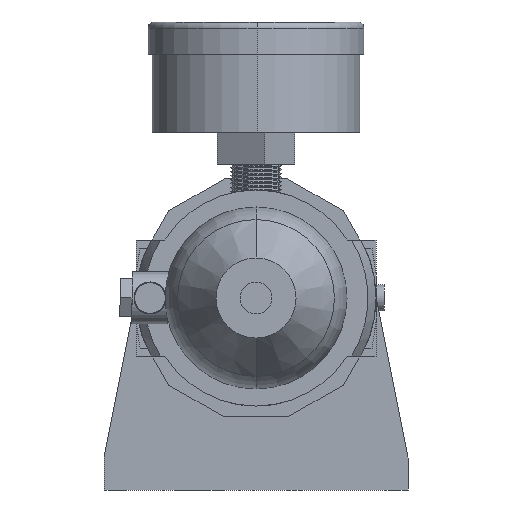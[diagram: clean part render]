
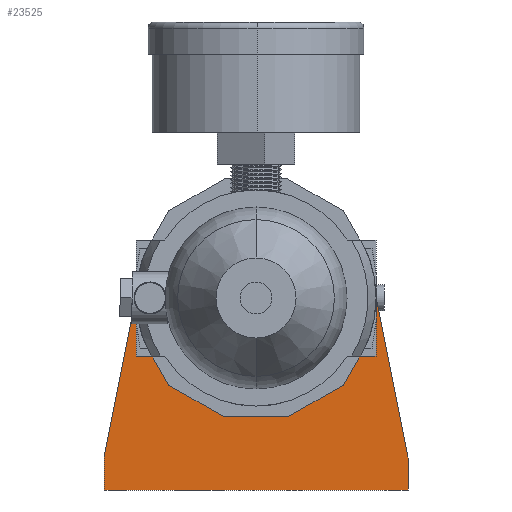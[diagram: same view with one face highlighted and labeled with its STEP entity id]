
A CAD part, front view. The second image highlights one B-rep face of the part: STEP entity #23525.
In plain terms, the highlighted planar face has unit normal (0, -1, 0).
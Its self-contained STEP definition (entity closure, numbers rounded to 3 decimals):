
#1418 = ORIENTED_EDGE ( 'NONE', *, *, #9093, .F. ) ;
#1424 = CARTESIAN_POINT ( 'NONE',  ( 38., 0., -48. ) ) ;
#1760 = LINE ( 'NONE', #1424, #8284 ) ;
#2009 = DIRECTION ( 'NONE',  ( 0., 1., 0. ) ) ;
#2086 = CARTESIAN_POINT ( 'NONE',  ( -38., 0., -48. ) ) ;
#2373 = DIRECTION ( 'NONE',  ( 0., 0., 1. ) ) ;
#2591 = DIRECTION ( 'NONE',  ( 0., 1., 0. ) ) ;
#2896 = VERTEX_POINT ( 'NONE', #27374 ) ;
#3068 = VERTEX_POINT ( 'NONE', #19307 ) ;
#3644 = CARTESIAN_POINT ( 'NONE',  ( 28.937, 0., 5.734 ) ) ;
#5476 = LINE ( 'NONE', #22653, #14761 ) ;
#5805 = EDGE_CURVE ( 'NONE', #6699, #18353, #1760, .T. ) ;
#6602 = VECTOR ( 'NONE', #18687, 1000. ) ;
#6699 = VERTEX_POINT ( 'NONE', #27477 ) ;
#8284 = VECTOR ( 'NONE', #18846, 1000. ) ;
#8612 = CARTESIAN_POINT ( 'NONE',  ( -38., 0., -48. ) ) ;
#8684 = CARTESIAN_POINT ( 'NONE',  ( -38., 0., -40. ) ) ;
#8881 = AXIS2_PLACEMENT_3D ( 'NONE', #11864, #21649, #2373 ) ;
#8958 = LINE ( 'NONE', #8684, #6602 ) ;
#9093 = EDGE_CURVE ( 'NONE', #18353, #20940, #15516, .T. ) ;
#9430 = EDGE_CURVE ( 'NONE', #31880, #26610, #8958, .T. ) ;
#10099 = FACE_BOUND ( 'NONE', #10564, .T. ) ;
#10564 = EDGE_LOOP ( 'NONE', ( #20808, #18296 ) ) ;
#10929 = CARTESIAN_POINT ( 'NONE',  ( -38., 0., -40. ) ) ;
#11794 = CARTESIAN_POINT ( 'NONE',  ( 38., 0., -48. ) ) ;
#11864 = CARTESIAN_POINT ( 'NONE',  ( 0., 0., 0. ) ) ;
#11917 = CARTESIAN_POINT ( 'NONE',  ( 0., 0., 0. ) ) ;
#12585 = CARTESIAN_POINT ( 'NONE',  ( -38., 0., -48. ) ) ;
#12606 = CARTESIAN_POINT ( 'NONE',  ( 0., 0., 0. ) ) ;
#12752 = CARTESIAN_POINT ( 'NONE',  ( 0., 0., 0. ) ) ;
#12965 = DIRECTION ( 'NONE',  ( 0., 1., 0. ) ) ;
#13849 = CIRCLE ( 'NONE', #23437, 24. ) ;
#13852 = EDGE_CURVE ( 'NONE', #3068, #2896, #21228, .T. ) ;
#14761 = VECTOR ( 'NONE', #27746, 1000. ) ;
#15041 = DIRECTION ( 'NONE',  ( -1., 0., 0. ) ) ;
#15516 = LINE ( 'NONE', #12585, #29482 ) ;
#15878 = FACE_OUTER_BOUND ( 'NONE', #30668, .T. ) ;
#16234 = EDGE_CURVE ( 'NONE', #2896, #3068, #13849, .T. ) ;
#16604 = ORIENTED_EDGE ( 'NONE', *, *, #9430, .F. ) ;
#18296 = ORIENTED_EDGE ( 'NONE', *, *, #13852, .T. ) ;
#18353 = VERTEX_POINT ( 'NONE', #11794 ) ;
#18619 = VECTOR ( 'NONE', #21882, 1000. ) ;
#18687 = DIRECTION ( 'NONE',  ( 0.194, 0., 0.981 ) ) ;
#18846 = DIRECTION ( 'NONE',  ( 0., 0., -1. ) ) ;
#19005 = AXIS2_PLACEMENT_3D ( 'NONE', #11917, #2009, #19215 ) ;
#19112 = PLANE ( 'NONE',  #19005 ) ;
#19215 = DIRECTION ( 'NONE',  ( 0., 0., 1. ) ) ;
#19307 = CARTESIAN_POINT ( 'NONE',  ( 0., 0., -24. ) ) ;
#19393 = LINE ( 'NONE', #2086, #18619 ) ;
#20179 = CARTESIAN_POINT ( 'NONE',  ( -28.937, 0., 5.734 ) ) ;
#20808 = ORIENTED_EDGE ( 'NONE', *, *, #16234, .T. ) ;
#20940 = VERTEX_POINT ( 'NONE', #8612 ) ;
#21228 = CIRCLE ( 'NONE', #23987, 24. ) ;
#21494 = VERTEX_POINT ( 'NONE', #3644 ) ;
#21649 = DIRECTION ( 'NONE',  ( 0., 1., 0. ) ) ;
#21882 = DIRECTION ( 'NONE',  ( 0., 0., 1. ) ) ;
#22653 = CARTESIAN_POINT ( 'NONE',  ( 38., 0., -40. ) ) ;
#22876 = CIRCLE ( 'NONE', #8881, 29.5 ) ;
#22945 = ORIENTED_EDGE ( 'NONE', *, *, #23233, .F. ) ;
#22951 = EDGE_CURVE ( 'NONE', #20940, #31880, #19393, .T. ) ;
#23233 = EDGE_CURVE ( 'NONE', #21494, #6699, #5476, .T. ) ;
#23437 = AXIS2_PLACEMENT_3D ( 'NONE', #12606, #2591, #26971 ) ;
#23525 = ADVANCED_FACE ( 'NONE', ( #10099, #15878 ), #19112, .F. ) ;
#23987 = AXIS2_PLACEMENT_3D ( 'NONE', #12752, #12965, #25165 ) ;
#24760 = ORIENTED_EDGE ( 'NONE', *, *, #22951, .F. ) ;
#25051 = ORIENTED_EDGE ( 'NONE', *, *, #30061, .F. ) ;
#25165 = DIRECTION ( 'NONE',  ( 0., 0., 1. ) ) ;
#26610 = VERTEX_POINT ( 'NONE', #20179 ) ;
#26971 = DIRECTION ( 'NONE',  ( 0., 0., 1. ) ) ;
#27374 = CARTESIAN_POINT ( 'NONE',  ( 0., 0., 24. ) ) ;
#27477 = CARTESIAN_POINT ( 'NONE',  ( 38., 0., -40. ) ) ;
#27746 = DIRECTION ( 'NONE',  ( 0.194, 0., -0.981 ) ) ;
#28481 = ORIENTED_EDGE ( 'NONE', *, *, #5805, .F. ) ;
#29482 = VECTOR ( 'NONE', #15041, 1000. ) ;
#30061 = EDGE_CURVE ( 'NONE', #26610, #21494, #22876, .T. ) ;
#30668 = EDGE_LOOP ( 'NONE', ( #16604, #24760, #1418, #28481, #22945, #25051 ) ) ;
#31880 = VERTEX_POINT ( 'NONE', #10929 ) ;
